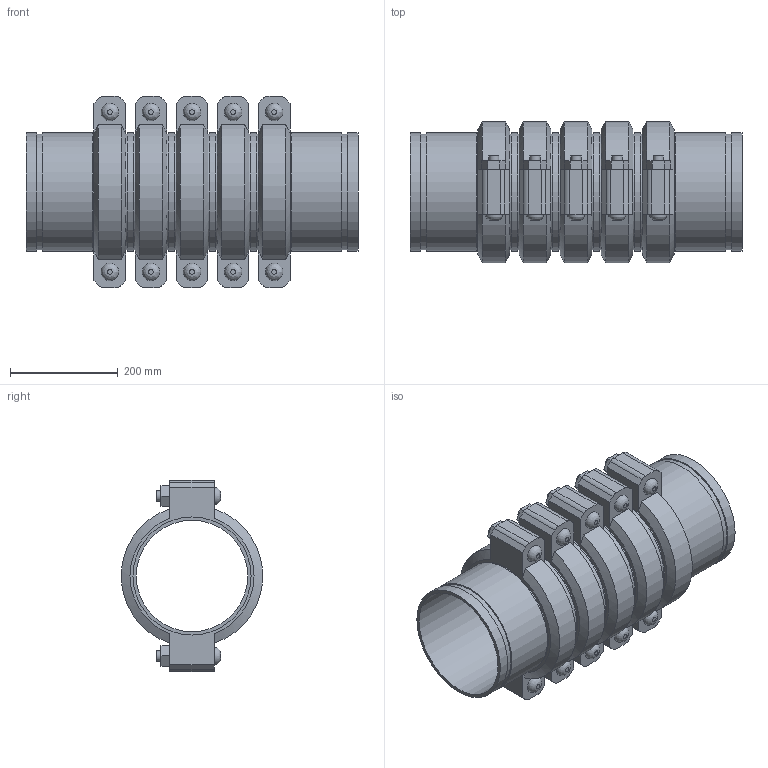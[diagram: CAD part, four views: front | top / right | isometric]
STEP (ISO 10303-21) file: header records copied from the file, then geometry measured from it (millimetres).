
FILE_DESCRIPTION(/* description */ ('VIC EXPANSION JOINT 5 COUPLINGS EXPANDED STYLE 155 (OGS)','CAx-IF Rec.Pracs.---Representation and Presentation of Product Manufacturing Information (PMI)---4.0---2014-10-13'),/* implementation_level */ '2;1');
FILE_NAME(/* name */ 'C:\Users\kkamble\AppData\Roaming\Autodesk\ApplicationPlugins\Victaulic.Temp\A557\Victaulic_IPS_Expansion Joint_Expanded_5 Couplings_Style 155 (OGS)_8 (200).stp',/* time_stamp */ '2021-06-27T00:03:04+02:00',/* author */ ('kkamble'),/* organization */ ('Victaulic'),/* preprocessor_version */ 'ST-DEVELOPER v17.2',/* originating_system */ 'Autodesk Inventor 2019',/* authorisation */ '');
FILE_SCHEMA (('AP242_MANAGED_MODEL_BASED_3D_ENGINEERING_MIM_LF { 1 0 10303 442 1 1 4 }'));
Length unit declared in the file: inch
Products named in the file (4): 155-08.0; Nipple-08.0; Nipple-08.0_1; 075-08.0
Assembly tree (11 placements, depth 2):
  155-08.0
    Nipple-08.0  x2
    Nipple-08.0_1  x4
    075-08.0  x5
Bounding box: 615.95 x 261.72 x 354.84 mm (x, y, z)
Volume: 9157153.1 mm3; surface area: 1744045.3 mm2
Topology: 11 solids, 21 shells, 357 faces, 845 edges, 594 vertices
Faces by surface type: plane 216, cylinder 111, cone 20, bspline 10
Full cylindrical faces by diameter (mm): 19.05 x20, 21.209 x10, 206.985 x6, 212.725 x5, 214.401 x12, 219.075 x28
Entity records: 2801 total; most frequent: CARTESIAN_POINT 495, DIRECTION 465, ORIENTED_EDGE 386, EDGE_CURVE 193, AXIS2_PLACEMENT_3D 186, VERTEX_POINT 138, EDGE_LOOP 107, LINE 93
